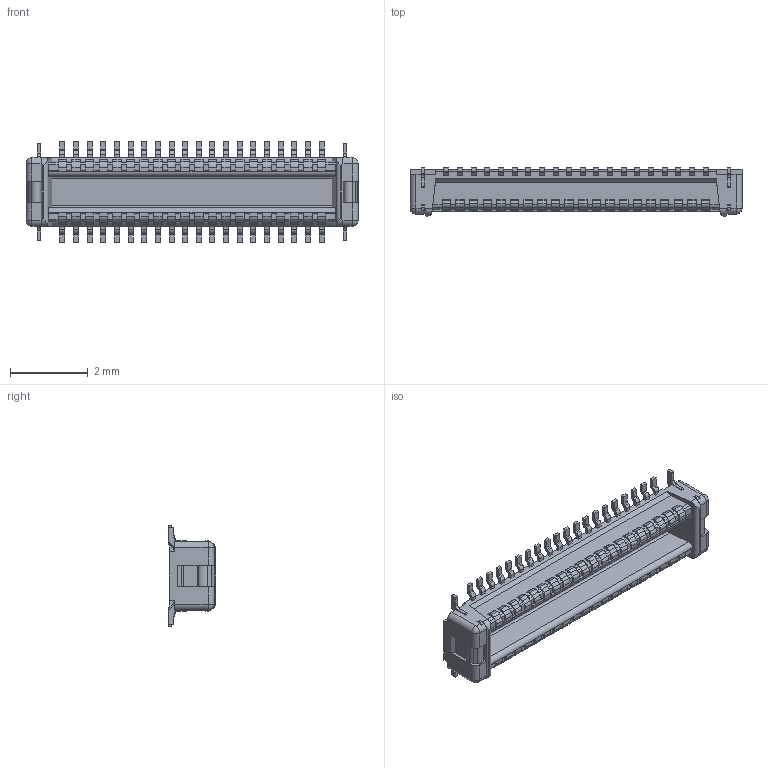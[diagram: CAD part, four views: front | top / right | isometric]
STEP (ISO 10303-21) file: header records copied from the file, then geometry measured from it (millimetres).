
FILE_DESCRIPTION (( 'STEP AP203' ), '1' );
FILE_NAME ('20842-040E-01-PLUG ASS''Y 3Dmodel STEP.STEP', '2018-04-13T01:46:17', ( '' ), ( '' ), 'SwSTEP 2.0', 'SolidWorks 2017', '' );
FILE_SCHEMA (( 'CONFIG_CONTROL_DESIGN' ));
Length unit declared in the file: millimetre
Products named in the file (1): 20842-040E-01-PLUG ASS''Y 3Dmodel STEP
Bounding box: 8.52 x 1.23 x 2.6 mm (x, y, z)
Volume: 10.3 mm3; surface area: 73.4 mm2
Topology: 1 solids, 1 shells, 1096 faces, 3270 edges, 2172 vertices
Faces by surface type: plane 678, cylinder 414, sphere 4
Entity records: 36883 total; most frequent: CARTESIAN_POINT 6639, ORIENTED_EDGE 6532, DIRECTION 6240, EDGE_CURVE 3266, LINE 2422, VECTOR 2422, VERTEX_POINT 2172, AXIS2_PLACEMENT_3D 1909
